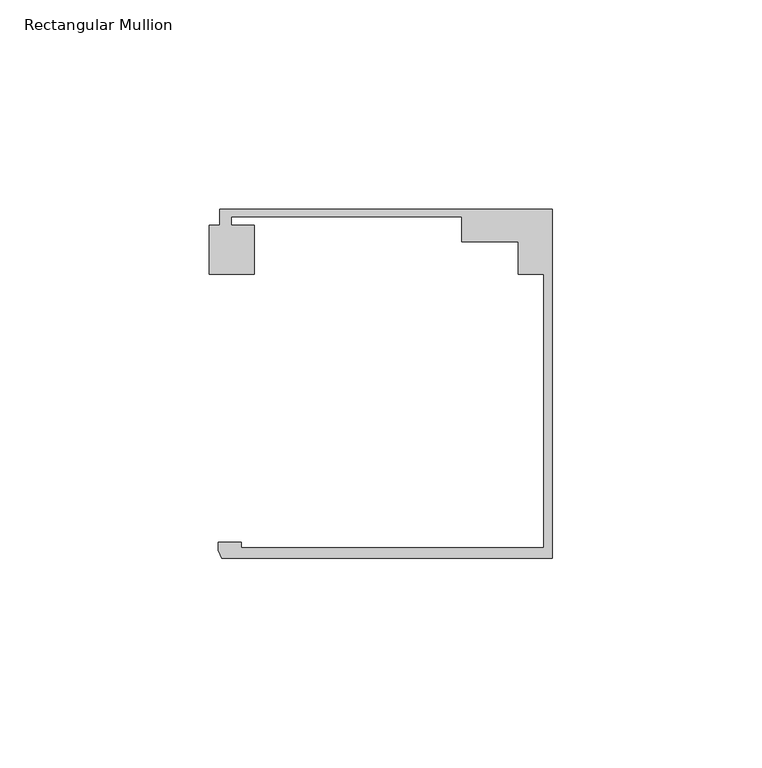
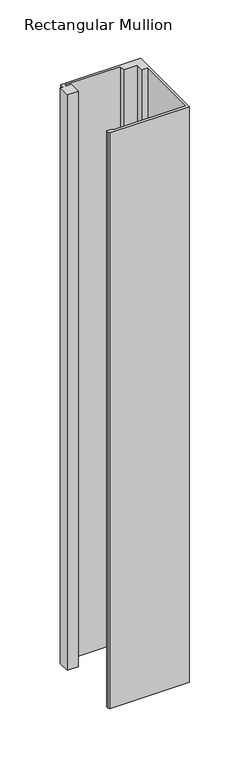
"""IFC4 building model written with IfcOpenShell, lengths in millimetres: member geometry, Rectangular Mullion : Danpal_Airpt_End-Mullion_B1."""

from ifc_helpers import new_model, si_unit, frame, origin, place, context, project, spatial, polyline, outline, extrude, source, transform, mapped, element, save


def rectangular_mullion_57ca20b1(model_context):
    return source(origin(), model_context, "Body", "SweptSolid", [
        extrude(outline(polyline([(-74.2474668, -74.9940824), (-2.0000001, -74.9940824), (-2.0000001, -9.7188964), (-8.1, -9.7188964), (-8.1, -1.8818054), (-21.5478166, -1.8818054), (-21.5478166, 4.0051512), (-76.6478166, 4.0051512), (-76.6478166, 2.0051513), (-71.1433532, 2.0051513), (-71.1433532, -9.6875514), (-81.8592324, -9.6875514), (-81.8592324, 2.0051513), (-79.3474874, 2.0051513), (-79.3474874, 5.8051514), (0.0, 5.8051514), (0.0, -77.4940825), (-78.8515009, -77.4940825), (-79.7784606, -75.5472671), (-79.7784606, -73.6940824), (-74.2474668, -73.6940824), (-74.2474668, -74.9940824)])), frame((0.0, 0.0, -603.1348638), z_axis=(0.0, 0.0, 1.0), x_axis=(1.0, 0.0, 0.0)), (0.0, 0.0, 1.0), 603.1348638),
    ])


if __name__ == "__main__":
    model = new_model("IFC4")
    model_context = context("Model", 3, world=origin())
    ifc_project = project(units=[si_unit("LENGTHUNIT", "METRE", prefix="MILLI")], contexts=[model_context])
    site = spatial("IfcSite", under=ifc_project)
    building = spatial("IfcBuilding", under=site)
    placement = place(None, origin())
    rectangular_mullion_shape = rectangular_mullion_57ca20b1(model_context)
    element("IfcMember", 1, ObjectType="Rectangular Mullion : Danpal_Airpt_End-Mullion_B1", at=placement, inside=building, context=model_context, shape_type="MappedRepresentation", body=[
        mapped(rectangular_mullion_shape, transform((0.0, 0.0, 0.0), x_axis=(1.0, 0.0, 0.0), y_axis=(0.0, 1.0, 0.0), z_axis=(0.0, 0.0, 1.0))),
    ])
    save(model, "model.ifc")
